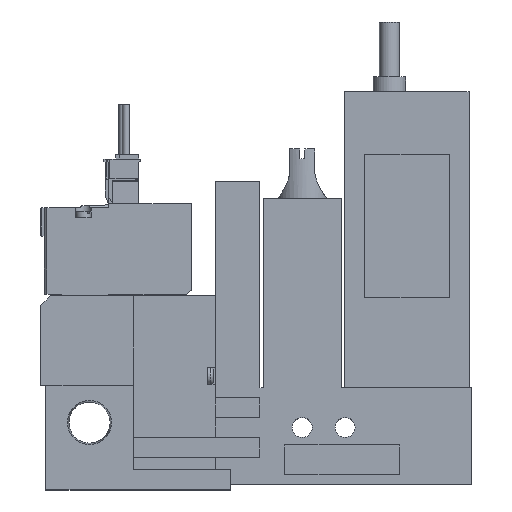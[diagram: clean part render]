
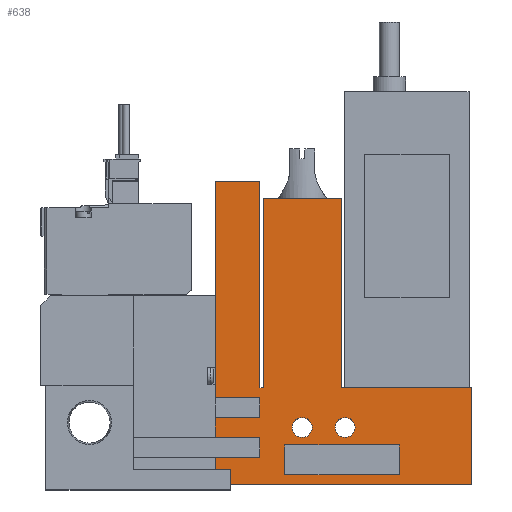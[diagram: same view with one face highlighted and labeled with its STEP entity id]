
A CAD part, top view. The second image highlights one B-rep face of the part: STEP entity #638.
In plain terms, the highlighted planar face has unit normal (0, 0, 1).
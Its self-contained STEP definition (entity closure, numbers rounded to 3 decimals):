
#638=ADVANCED_FACE('',(#1402,#1403,#1404,#1405),#1406,.T.);
#1402=FACE_OUTER_BOUND('',#2296,.T.);
#1403=FACE_BOUND('',#2297,.T.);
#1404=FACE_BOUND('',#2298,.T.);
#1405=FACE_BOUND('',#2299,.T.);
#1406=PLANE('',#2300);
#2296=EDGE_LOOP('',(#5051,#5052,#5053,#5054,#5055,#5056,#5057,#5058,#5059,#5060,#5061,#5062,#5063,#5064,#5065,#5066,#5067,#5068));
#2297=EDGE_LOOP('',(#5069,#5070,#5071,#5072));
#2298=EDGE_LOOP('',(#5073));
#2299=EDGE_LOOP('',(#5074));
#2300=AXIS2_PLACEMENT_3D('',#5075,#5076,#5077);
#5051=ORIENTED_EDGE('',*,*,#6561,.T.);
#5052=ORIENTED_EDGE('',*,*,#6584,.T.);
#5053=ORIENTED_EDGE('',*,*,#6574,.T.);
#5054=ORIENTED_EDGE('',*,*,#6512,.T.);
#5055=ORIENTED_EDGE('',*,*,#6585,.T.);
#5056=ORIENTED_EDGE('',*,*,#6586,.T.);
#5057=ORIENTED_EDGE('',*,*,#6587,.T.);
#5058=ORIENTED_EDGE('',*,*,#6588,.T.);
#5059=ORIENTED_EDGE('',*,*,#6589,.T.);
#5060=ORIENTED_EDGE('',*,*,#6504,.T.);
#5061=ORIENTED_EDGE('',*,*,#6450,.T.);
#5062=ORIENTED_EDGE('',*,*,#6515,.T.);
#5063=ORIENTED_EDGE('',*,*,#6569,.T.);
#5064=ORIENTED_EDGE('',*,*,#6590,.T.);
#5065=ORIENTED_EDGE('',*,*,#6591,.T.);
#5066=ORIENTED_EDGE('',*,*,#6592,.T.);
#5067=ORIENTED_EDGE('',*,*,#6550,.T.);
#5068=ORIENTED_EDGE('',*,*,#6547,.T.);
#5069=ORIENTED_EDGE('',*,*,#6593,.T.);
#5070=ORIENTED_EDGE('',*,*,#6567,.T.);
#5071=ORIENTED_EDGE('',*,*,#6483,.T.);
#5072=ORIENTED_EDGE('',*,*,#6594,.T.);
#5073=ORIENTED_EDGE('',*,*,#6479,.T.);
#5074=ORIENTED_EDGE('',*,*,#6541,.T.);
#5075=CARTESIAN_POINT('',(0.0,0.0,10.0));
#5076=DIRECTION('',(0.0,0.0,1.0));
#5077=DIRECTION('',(1.0,0.0,0.0));
#6450=EDGE_CURVE('',#7951,#7949,#7952,.T.);
#6479=EDGE_CURVE('',#8004,#8004,#8005,.T.);
#6483=EDGE_CURVE('',#8006,#8011,#8013,.T.);
#6504=EDGE_CURVE('',#8053,#7951,#8054,.T.);
#6512=EDGE_CURVE('',#8062,#8065,#8067,.T.);
#6515=EDGE_CURVE('',#7949,#8070,#8072,.T.);
#6541=EDGE_CURVE('',#8119,#8119,#8120,.T.);
#6547=EDGE_CURVE('',#8130,#8128,#8131,.T.);
#6550=EDGE_CURVE('',#8135,#8130,#8136,.T.);
#6561=EDGE_CURVE('',#8128,#8151,#8153,.T.);
#6567=EDGE_CURVE('',#8159,#8006,#8163,.T.);
#6569=EDGE_CURVE('',#8070,#8164,#8166,.T.);
#6574=EDGE_CURVE('',#8173,#8062,#8175,.T.);
#6584=EDGE_CURVE('',#8151,#8173,#8190,.T.);
#6585=EDGE_CURVE('',#8065,#8191,#8192,.T.);
#6586=EDGE_CURVE('',#8191,#8193,#8194,.T.);
#6587=EDGE_CURVE('',#8193,#8195,#8196,.T.);
#6588=EDGE_CURVE('',#8195,#8197,#8198,.T.);
#6589=EDGE_CURVE('',#8197,#8053,#8199,.T.);
#6590=EDGE_CURVE('',#8164,#8200,#8201,.T.);
#6591=EDGE_CURVE('',#8200,#8202,#8203,.T.);
#6592=EDGE_CURVE('',#8202,#8135,#8204,.T.);
#6593=EDGE_CURVE('',#8205,#8159,#8206,.T.);
#6594=EDGE_CURVE('',#8011,#8205,#8207,.T.);
#7949=VERTEX_POINT('',#10339);
#7951=VERTEX_POINT('',#10342);
#7952=LINE('',#10343,#10344);
#8004=VERTEX_POINT('',#10416);
#8005=CIRCLE('',#10417,2.0);
#8006=VERTEX_POINT('',#10418);
#8011=VERTEX_POINT('',#10425);
#8013=LINE('',#10428,#10429);
#8053=VERTEX_POINT('',#10488);
#8054=LINE('',#10489,#10490);
#8062=VERTEX_POINT('',#10502);
#8065=VERTEX_POINT('',#10507);
#8067=LINE('',#10510,#10511);
#8070=VERTEX_POINT('',#10515);
#8072=LINE('',#10518,#10519);
#8119=VERTEX_POINT('',#10590);
#8120=CIRCLE('',#10591,2.0);
#8128=VERTEX_POINT('',#10603);
#8130=VERTEX_POINT('',#10606);
#8131=LINE('',#10607,#10608);
#8135=VERTEX_POINT('',#10613);
#8136=LINE('',#10614,#10615);
#8151=VERTEX_POINT('',#10639);
#8153=LINE('',#10642,#10643);
#8159=VERTEX_POINT('',#10652);
#8163=LINE('',#10658,#10659);
#8164=VERTEX_POINT('',#10660);
#8166=LINE('',#10663,#10664);
#8173=VERTEX_POINT('',#10671);
#8175=LINE('',#10674,#10675);
#8190=LINE('',#10698,#10699);
#8191=VERTEX_POINT('',#10700);
#8192=LINE('',#10701,#10702);
#8193=VERTEX_POINT('',#10703);
#8194=LINE('',#10704,#10705);
#8195=VERTEX_POINT('',#10706);
#8196=LINE('',#10707,#10708);
#8197=VERTEX_POINT('',#10709);
#8198=LINE('',#10710,#10711);
#8199=LINE('',#10712,#10713);
#8200=VERTEX_POINT('',#10714);
#8201=LINE('',#10715,#10716);
#8202=VERTEX_POINT('',#10717);
#8203=LINE('',#10718,#10719);
#8204=LINE('',#10720,#10721);
#8205=VERTEX_POINT('',#10722);
#8206=LINE('',#10723,#10724);
#8207=LINE('',#10725,#10726);
#10339=CARTESIAN_POINT('',(86.6,19.5,10.0));
#10342=CARTESIAN_POINT('',(86.6,0.0,10.0));
#10343=CARTESIAN_POINT('',(86.6,0.0,10.0));
#10344=VECTOR('',#12023,1.0);
#10416=CARTESIAN_POINT('',(54.6,11.5,10.0));
#10417=AXIS2_PLACEMENT_3D('',#12065,#12066,#12067);
#10418=CARTESIAN_POINT('',(72.1,8.0,10.0));
#10425=CARTESIAN_POINT('',(72.1,2.0,10.0));
#10428=CARTESIAN_POINT('',(72.1,0.0,10.0));
#10429=VECTOR('',#12071,1.0);
#10488=CARTESIAN_POINT('',(35.1,0.0,10.0));
#10489=CARTESIAN_POINT('',(18.6,0.0,10.0));
#10490=VECTOR('',#12094,1.0);
#10502=CARTESIAN_POINT('',(44.1,13.5,10.0));
#10507=CARTESIAN_POINT('',(35.1,13.5,10.0));
#10510=CARTESIAN_POINT('',(0.0,13.5,10.0));
#10511=VECTOR('',#12102,1.0);
#10515=CARTESIAN_POINT('',(60.45,19.5,10.0));
#10518=CARTESIAN_POINT('',(86.6,19.5,10.0));
#10519=VECTOR('',#12105,1.0);
#10590=CARTESIAN_POINT('',(63.2,11.5,10.0));
#10591=AXIS2_PLACEMENT_3D('',#12133,#12134,#12135);
#10603=CARTESIAN_POINT('',(35.1,61.0,10.0));
#10606=CARTESIAN_POINT('',(44.1,61.0,10.0));
#10607=CARTESIAN_POINT('',(44.1,61.0,10.0));
#10608=VECTOR('',#12141,1.0);
#10613=CARTESIAN_POINT('',(44.1,19.5,10.0));
#10614=CARTESIAN_POINT('',(44.1,19.5,10.0));
#10615=VECTOR('',#12146,1.0);
#10639=CARTESIAN_POINT('',(35.1,17.5,10.0));
#10642=CARTESIAN_POINT('',(35.1,61.0,10.0));
#10643=VECTOR('',#12157,1.0);
#10652=CARTESIAN_POINT('',(49.1,8.0,10.0));
#10658=CARTESIAN_POINT('',(0.0,8.0,10.0));
#10659=VECTOR('',#12163,1.0);
#10660=CARTESIAN_POINT('',(60.45,57.5,10.0));
#10663=CARTESIAN_POINT('',(60.45,19.5,10.0));
#10664=VECTOR('',#12165,1.0);
#10671=CARTESIAN_POINT('',(44.1,17.5,10.0));
#10674=CARTESIAN_POINT('',(44.1,0.0,10.0));
#10675=VECTOR('',#12176,1.0);
#10698=CARTESIAN_POINT('',(0.0,17.5,10.0));
#10699=VECTOR('',#12188,1.0);
#10700=CARTESIAN_POINT('',(35.1,9.5,10.0));
#10701=CARTESIAN_POINT('',(35.1,0.0,10.0));
#10702=VECTOR('',#12189,1.0);
#10703=CARTESIAN_POINT('',(44.1,9.5,10.0));
#10704=CARTESIAN_POINT('',(0.0,9.5,10.0));
#10705=VECTOR('',#12190,1.0);
#10706=CARTESIAN_POINT('',(44.1,5.5,10.0));
#10707=CARTESIAN_POINT('',(44.1,0.0,10.0));
#10708=VECTOR('',#12191,1.0);
#10709=CARTESIAN_POINT('',(35.1,5.5,10.0));
#10710=CARTESIAN_POINT('',(0.0,5.5,10.0));
#10711=VECTOR('',#12192,1.0);
#10712=CARTESIAN_POINT('',(35.1,0.0,10.0));
#10713=VECTOR('',#12193,1.0);
#10714=CARTESIAN_POINT('',(44.75,57.5,10.0));
#10715=CARTESIAN_POINT('',(60.45,57.5,10.0));
#10716=VECTOR('',#12194,1.0);
#10717=CARTESIAN_POINT('',(44.75,19.5,10.0));
#10718=CARTESIAN_POINT('',(44.75,57.5,10.0));
#10719=VECTOR('',#12195,1.0);
#10720=CARTESIAN_POINT('',(44.75,19.5,10.0));
#10721=VECTOR('',#12196,1.0);
#10722=CARTESIAN_POINT('',(49.1,2.0,10.0));
#10723=CARTESIAN_POINT('',(49.1,0.0,10.0));
#10724=VECTOR('',#12197,1.0);
#10725=CARTESIAN_POINT('',(0.0,2.0,10.0));
#10726=VECTOR('',#12198,1.0);
#12023=DIRECTION('',(0.0,1.0,0.0));
#12065=CARTESIAN_POINT('',(52.6,11.5,10.0));
#12066=DIRECTION('',(0.0,0.0,-1.0));
#12067=DIRECTION('',(1.0,0.0,0.0));
#12071=DIRECTION('',(0.0,-1.0,0.0));
#12094=DIRECTION('',(1.0,0.0,0.0));
#12102=DIRECTION('',(-1.0,0.0,0.0));
#12105=DIRECTION('',(-1.0,0.0,0.0));
#12133=CARTESIAN_POINT('',(61.2,11.5,10.0));
#12134=DIRECTION('',(0.0,0.0,-1.0));
#12135=DIRECTION('',(1.0,0.0,0.0));
#12141=DIRECTION('',(-1.0,0.0,0.0));
#12146=DIRECTION('',(0.0,1.0,0.0));
#12157=DIRECTION('',(0.0,-1.0,0.0));
#12163=DIRECTION('',(1.0,0.0,0.0));
#12165=DIRECTION('',(0.0,1.0,0.0));
#12176=DIRECTION('',(0.0,-1.0,0.0));
#12188=DIRECTION('',(1.0,0.0,0.0));
#12189=DIRECTION('',(0.0,-1.0,0.0));
#12190=DIRECTION('',(1.0,0.0,0.0));
#12191=DIRECTION('',(0.0,-1.0,0.0));
#12192=DIRECTION('',(-1.0,0.0,0.0));
#12193=DIRECTION('',(0.0,-1.0,0.0));
#12194=DIRECTION('',(-1.0,0.0,0.0));
#12195=DIRECTION('',(0.0,-1.0,0.0));
#12196=DIRECTION('',(-1.0,0.0,0.0));
#12197=DIRECTION('',(0.0,1.0,0.0));
#12198=DIRECTION('',(-1.0,0.0,0.0));
